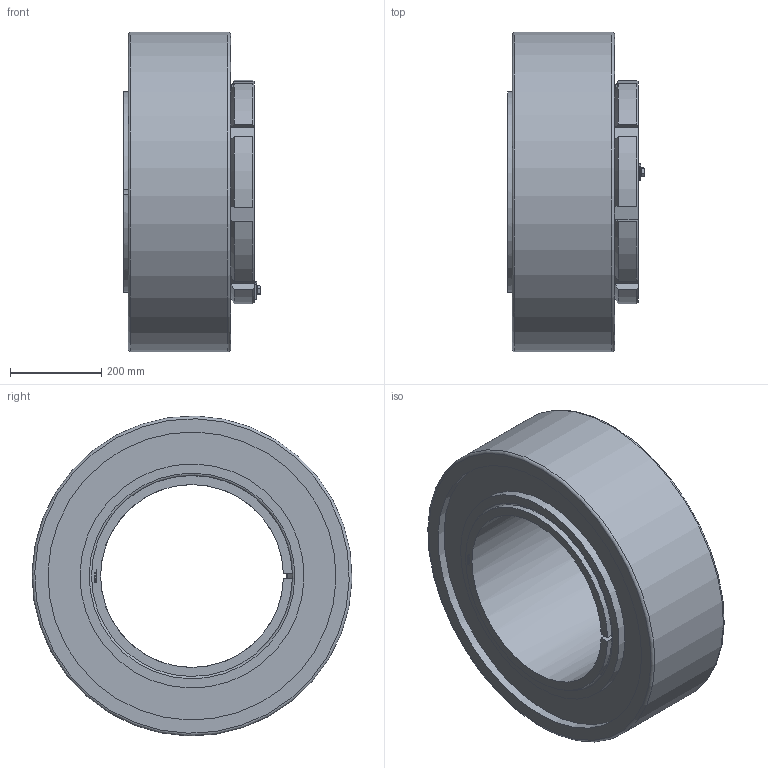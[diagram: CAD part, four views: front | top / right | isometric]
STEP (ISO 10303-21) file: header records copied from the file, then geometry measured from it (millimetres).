
FILE_DESCRIPTION( ( 'STEP AP203' ), ' ' );
FILE_NAME( 'p:/temp/worker_355/3968_3024/app_90_02016102823120157913941192d056f_000000_00_00_000000/format_0/BGL HE 3184 TL+C3184K.stp', '2016-10-28T21:12:03', ( '' ), ( '' ), ' ', 'PARTsolutions', ' ' );
FILE_SCHEMA( ( 'CONFIG_CONTROL_DESIGN' ) );
Length unit declared in the file: millimetre
Products named in the file (6): BGL HE 3184 TL+C3184K; _BGLHE3184TLB; _BGL HM 3084; _BGLHE3184TL+HE-C3184K; _BGL MS 3084part; _BGL MS 3084HHS
Assembly tree (5 placements, depth 2):
  BGL HE 3184 TL+C3184K
    _BGLHE3184TLB
    _BGL HM 3084
    _BGLHE3184TL+HE-C3184K
    _BGL MS 3084part
    _BGL MS 3084HHS
Bounding box: 299.36 x 699.76 x 699.76 mm (x, y, z)
Volume: 56629430 mm3; surface area: 2423230.8 mm2
Topology: 5 solids, 5 shells, 351 faces, 899 edges, 589 vertices
Faces by surface type: plane 230, cylinder 79, cone 38, torus 4
Full cylindrical faces by diameter (mm): 10 x9, 12 x1, 18.1 x1, 415 x1, 490 x2, 630 x2, 700 x1
Entity records: 10770 total; most frequent: CARTESIAN_POINT 2112, DIRECTION 1729, ORIENTED_EDGE 1726, EDGE_CURVE 863, VERTEX_POINT 586, AXIS2_PLACEMENT_3D 577, LINE 575, VECTOR 575
